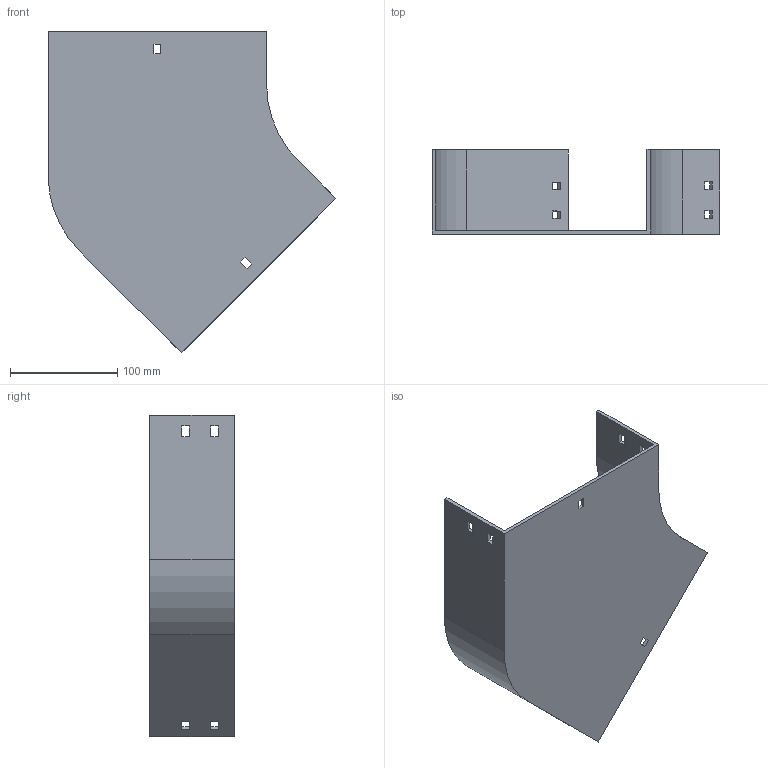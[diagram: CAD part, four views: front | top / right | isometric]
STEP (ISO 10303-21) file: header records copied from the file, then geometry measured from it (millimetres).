
FILE_DESCRIPTION (( 'STEP AP214' ), '1' );
FILE_NAME ('11B1C200.step', '2025-02-21T09:38:40', ( '' ), ( '' ), 'SwSTEP 2.0', 'SolidWorks 2023', '' );
FILE_SCHEMA (( 'AUTOMOTIVE_DESIGN' ));
Length unit declared in the file: millimetre
Products named in the file (1): 11B1C200
Bounding box: 268.64 x 79 x 300.32 mm (x, y, z)
Volume: 327529.2 mm3; surface area: 192654.8 mm2
Topology: 1 solids, 1 shells, 58 faces, 168 edges, 112 vertices
Faces by surface type: plane 54, cylinder 4
Entity records: 1943 total; most frequent: CARTESIAN_POINT 339, ORIENTED_EDGE 336, DIRECTION 294, EDGE_CURVE 168, VECTOR 160, LINE 160, VERTEX_POINT 112, EDGE_LOOP 78
